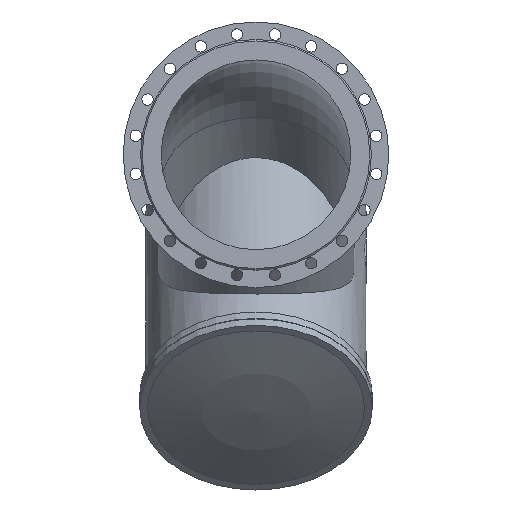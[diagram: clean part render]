
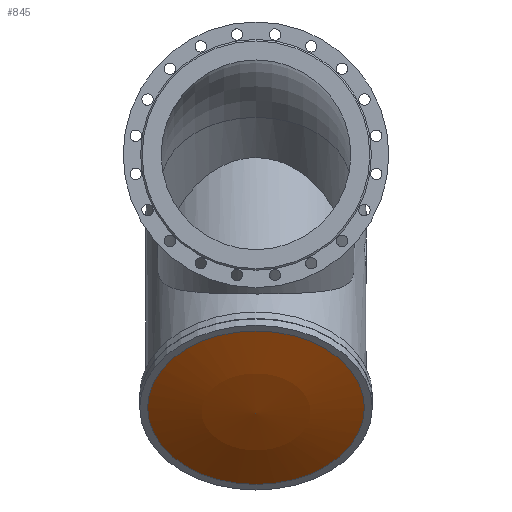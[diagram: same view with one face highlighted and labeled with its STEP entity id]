
A CAD part, front view. The second image highlights one B-rep face of the part: STEP entity #845.
In plain terms, the highlighted spherical face has radius 2365.48 mm.
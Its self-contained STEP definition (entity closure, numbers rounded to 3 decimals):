
#845=ADVANCED_FACE('',(#1836),#1838,.T.);
#1836=FACE_OUTER_BOUND('',#1837,.T.);
#1837=EDGE_LOOP('',(#2256));
#1838=SPHERICAL_SURFACE('',#1839,2365.48);
#1839=AXIS2_PLACEMENT_3D('',#1840,#1841,#1842);
#1840=CARTESIAN_POINT('',(0.,1300.185,855.185));
#1841=DIRECTION('',(0.,-0.707,-0.707));
#1842=DIRECTION('',(0.,0.707,-0.707));
#2256=ORIENTED_EDGE('',*,*,#2442,.T.);
#2442=EDGE_CURVE('',#2769,#2769,#2770,.T.);
#2769=VERTEX_POINT('',#4421);
#2770=CIRCLE('',#4422,343.);
#4421=CARTESIAN_POINT('',(0.,-112.247,-1042.322));
#4422=AXIS2_PLACEMENT_3D('',#4423,#4424,#4425);
#4423=CARTESIAN_POINT('',(0.,-354.785,-799.785));
#4424=DIRECTION('',(0.,-0.707,-0.707));
#4425=DIRECTION('',(0.,0.707,-0.707));
